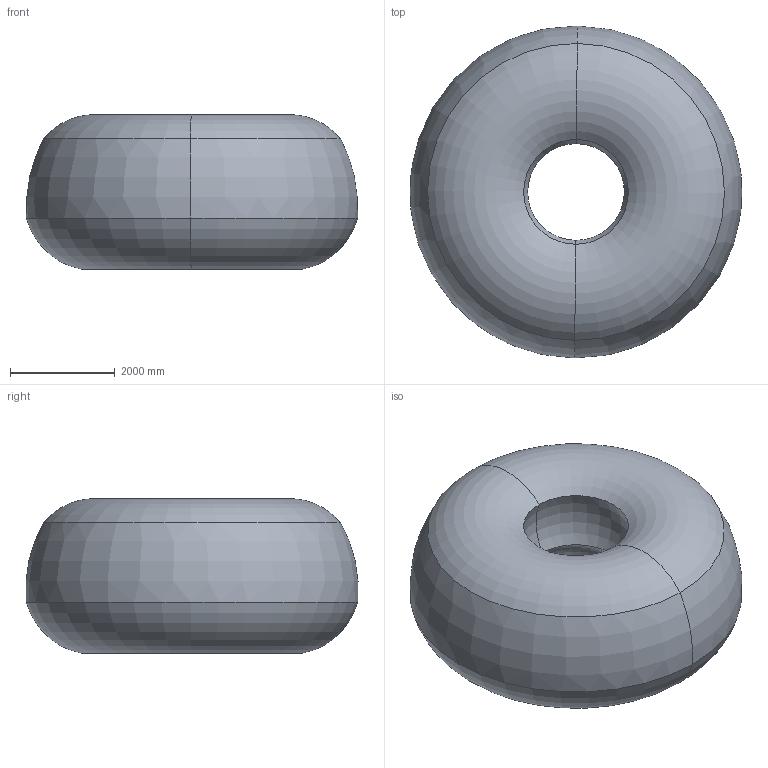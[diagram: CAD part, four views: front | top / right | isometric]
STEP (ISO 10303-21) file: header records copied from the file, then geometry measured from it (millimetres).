
FILE_DESCRIPTION (( 'STEP AP214' ), '1' );
FILE_NAME ('IRB760_445-318_WORKING-SPACE_rev00.STEP', '2020-01-31T12:19:08', ( '' ), ( '' ), 'SwSTEP 2.0', 'SolidWorks 2018', '' );
FILE_SCHEMA (( 'AUTOMOTIVE_DESIGN' ));
Length unit declared in the file: millimetre
Products named in the file (2): IRB760_445-318_WORKING-SPACE_rev00
Bounding box: 6337.79 x 6350.23 x 2956.11 mm (x, y, z)
Volume: 61767730347.5 mm3; surface area: 109302812.1 mm2
Topology: 1 solids, 1 shells, 12 faces, 24 edges, 12 vertices
Faces by surface type: torus 12
Entity records: 501 total; most frequent: DIRECTION 76, CARTESIAN_POINT 50, ORIENTED_EDGE 48, AXIS2_PLACEMENT_3D 38, EDGE_CURVE 24, CIRCLE 24, UNCERTAINTY_MEASURE_WITH_UNIT 15, PRESENTATION_STYLE_ASSIGNMENT 14
